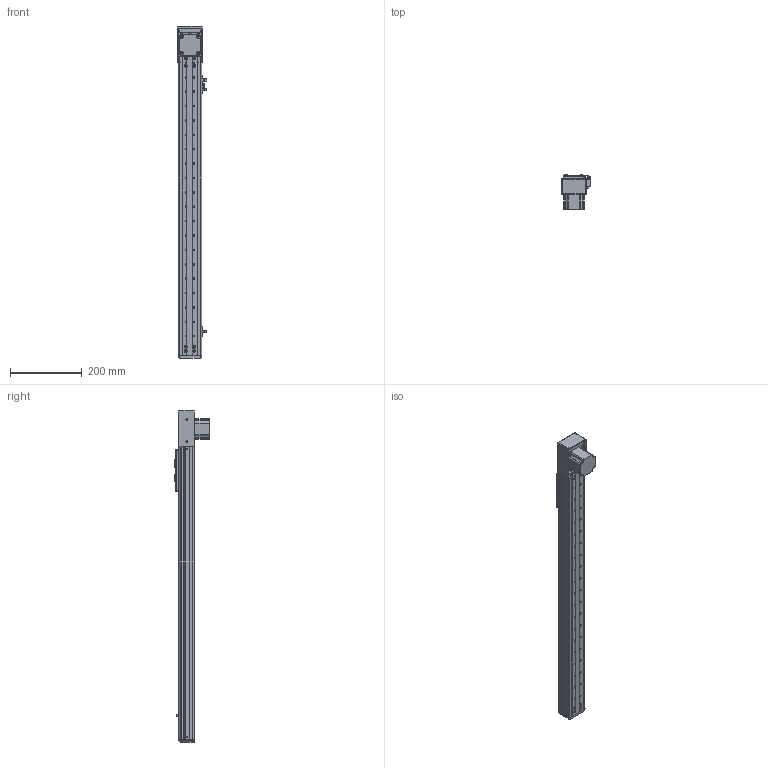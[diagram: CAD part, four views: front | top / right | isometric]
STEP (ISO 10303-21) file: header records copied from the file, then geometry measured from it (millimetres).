
FILE_DESCRIPTION (( 'STEP AP203' ), '1' );
FILE_NAME ('RY60F-T-350-DK.SLDASM_650.step', '2021-03-02T00:56:00', ( '盈信电脑' ), ( '东莞市道滘镇水果街19号' ), 'SwSTEP 2.0', 'SolidWorks 2012', '' );
FILE_SCHEMA (( 'CONFIG_CONTROL_DESIGN' ));
Length unit declared in the file: millimetre
Products named in the file (19): RY60F-T-350-DK.SLDASM_650; RY60F-T-狟殏欶; 57祭輛萇儂; RY60F-T-下折同步带拉紧板; RY60F-T-57萇儂奻殏假蚾啣; RY60F-肮祭湍揤輸; RY60F-肮祭湍揤輸2; RY60F-350-肮祭湍滅鳥詩え-DK_650; 滅袉蝶18-24; 覜茼ん672; RY50F-350-MR15W絳寢-DK_650; RY60F-祥凄詩滅鳥裔; RY60F-350肮祭湍俋褲-DK_650; RY60F-T-下折57电机端同步轮座; RY50-60詩湍揤啣; RY60F-浮动端同步轮支撑座; RY60F-嫖萇羲壽結え; RY60F-滅鳥詩え盓殤; RY60F-肮祭湍臏賑輸
Assembly tree (23 placements, depth 2):
  RY60F-T-350-DK.SLDASM_650
    RY60F-肮祭湍臏賑輸
    RY60F-浮动端同步轮支撑座
    RY60F-滅鳥詩え盓殤
    RY60F-嫖萇羲壽結え
    RY50-60詩湍揤啣  x2
    RY60F-祥凄詩滅鳥裔
    RY60F-T-下折57电机端同步轮座
    RY60F-350肮祭湍俋褲-DK_650  x2
    覜茼ん672  x3
    RY60F-350-肮祭湍滅鳥詩え-DK_650
    RY50F-350-MR15W絳寢-DK_650
    滅袉蝶18-24  x2
    RY60F-T-57萇儂奻殏假蚾啣
    RY60F-T-下折同步带拉紧板
    RY60F-肮祭湍揤輸
    RY60F-肮祭湍揤輸2
    57祭輛萇儂
    RY60F-T-狟殏欶
Bounding box: 80.76 x 96.5 x 923 mm (x, y, z)
Volume: 928439.9 mm3; surface area: 596272.6 mm2
Topology: 23 solids, 23 shells, 1182 faces, 3242 edges, 2084 vertices
Faces by surface type: cylinder 555, plane 546, cone 71, bspline 10
Entity records: 36417 total; most frequent: CARTESIAN_POINT 6601, DIRECTION 5888, ORIENTED_EDGE 5660, EDGE_CURVE 2830, AXIS2_PLACEMENT_3D 2079, VERTEX_POINT 1852, LINE 1730, VECTOR 1730
